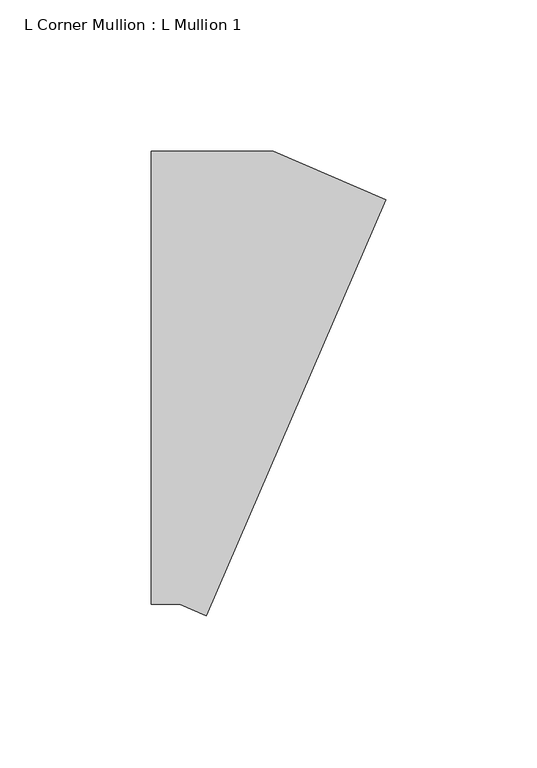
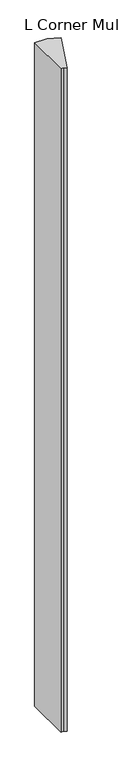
"""IFC4 building model written with IfcOpenShell, lengths in millimetres: member geometry, L Corner Mullion : L Mullion 1."""

from ifc_helpers import new_model, si_unit, frame, origin, place, context, project, spatial, polyline, outline, extrude, source, transform, mapped, element, save


def l_corner_mullion_l_mullion_1_6041dea9(model_context):
    return source(origin(), model_context, "Body", "SweptSolid", [
        extrude(outline(polyline([(-6.7568578, -78.7676639), (-15.4893706, -75.0), (-25.0, -75.0), (-25.0, 75.0), (15.4893706, 75.0), (52.6660846, 58.9600164), (-6.7568578, -78.7676639)])), frame((0.0, 0.0, -2320.5415282), z_axis=(0.0, 0.0, 1.0), x_axis=(1.0, 0.0, 0.0)), (0.0, 0.0, 1.0), 2320.5415282),
    ])


if __name__ == "__main__":
    model = new_model("IFC4")
    model_context = context("Model", 3, world=origin())
    ifc_project = project(units=[si_unit("LENGTHUNIT", "METRE", prefix="MILLI")], contexts=[model_context])
    site = spatial("IfcSite", under=ifc_project)
    building = spatial("IfcBuilding", under=site)
    placement = place(None, origin())
    l_corner_mullion_l_mullion_1_shape = l_corner_mullion_l_mullion_1_6041dea9(model_context)
    element("IfcMember", 1, ObjectType="L Corner Mullion : L Mullion 1", at=placement, inside=building, context=model_context, shape_type="MappedRepresentation", body=[
        mapped(l_corner_mullion_l_mullion_1_shape, transform((0.0, 0.0, 0.0), x_axis=(1.0, 0.0, 0.0), y_axis=(0.0, 1.0, 0.0), z_axis=(0.0, 0.0, 1.0))),
    ])
    save(model, "model.ifc")
